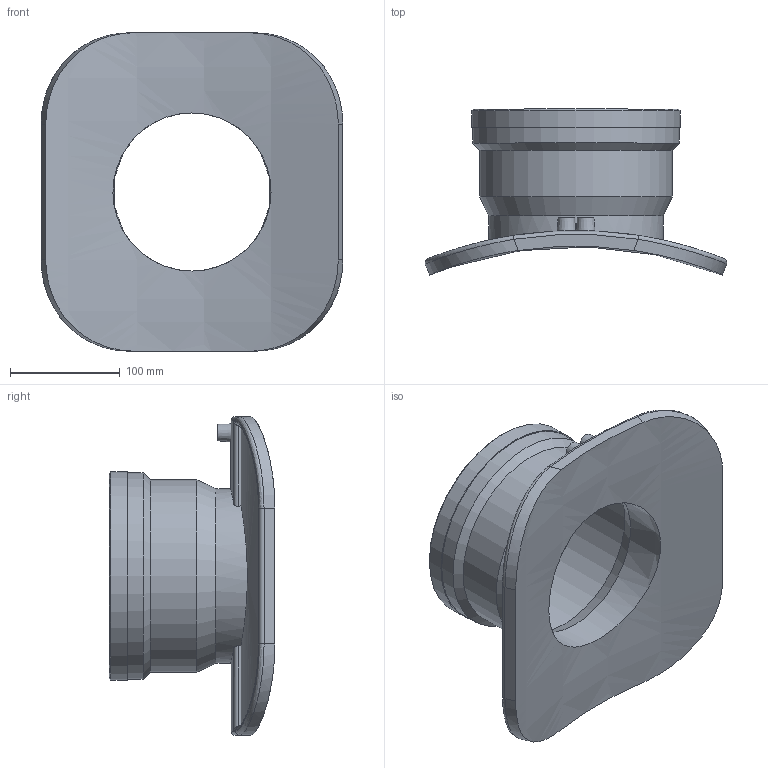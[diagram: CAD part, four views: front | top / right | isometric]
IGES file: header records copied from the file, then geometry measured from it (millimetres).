
Global section: file name: 4758V4710160.ipt; native system: Autodesk Inventor 2015; preprocessor: unknown; author: Кирилл,,11,0; organization: 20170830.202409; date: 20171106.093515; units: millimetre
Bounding box: 274.83 x 150.93 x 290 mm (x, y, z)
Volume: 1198813.3 mm3; surface area: 274534.6 mm2
Topology: 1 solids, 1 shells, 81 faces, 193 edges, 123 vertices
Faces by surface type: cylinder 24, revolution 24, plane 19, bspline 8, cone 6
Full cylindrical faces by diameter (mm): 4 x2, 159 x1, 160 x1, 175 x1, 188.1 x1, 190 x1
